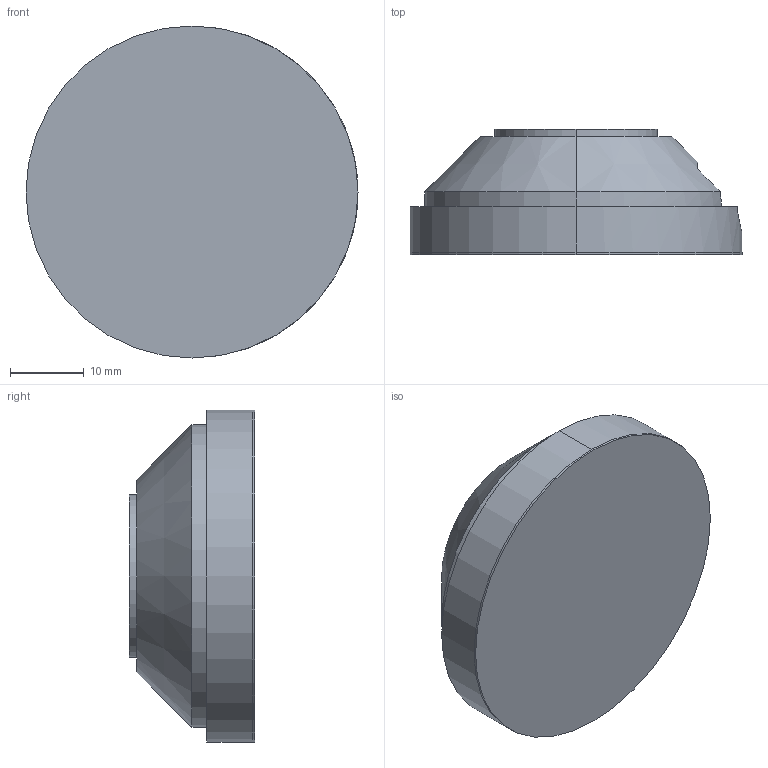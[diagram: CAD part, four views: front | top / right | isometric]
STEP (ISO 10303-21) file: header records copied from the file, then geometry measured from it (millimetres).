
FILE_DESCRIPTION (( 'STEP AP203' ), '1' );
FILE_NAME ('EZ-0053-045 Standardlager Bestell-Nr. 0001977.STEP', '2021-09-16T15:20:58', ( '' ), ( '' ), 'SwSTEP 2.0', 'SolidWorks 2021', '' );
FILE_SCHEMA (( 'CONFIG_CONTROL_DESIGN' ));
Length unit declared in the file: millimetre
Products named in the file (1): EZ-0053-045 Standardlager  Bestell-Nr. 0001977
Bounding box: 45 x 17 x 45 mm (x, y, z)
Volume: 19190.2 mm3; surface area: 8754.1 mm2
Topology: 4 solids, 4 shells, 82 faces, 190 edges, 120 vertices
Faces by surface type: cylinder 34, plane 23, cone 15, torus 8, sphere 2
Entity records: 2505 total; most frequent: CARTESIAN_POINT 508, DIRECTION 439, ORIENTED_EDGE 376, EDGE_CURVE 188, AXIS2_PLACEMENT_3D 187, VERTEX_POINT 120, CIRCLE 104, EDGE_LOOP 92
